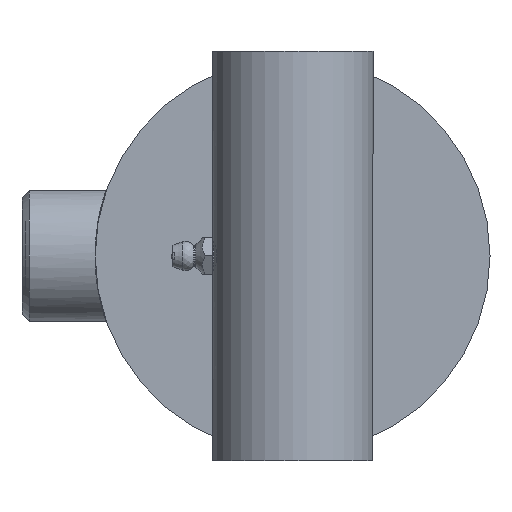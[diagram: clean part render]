
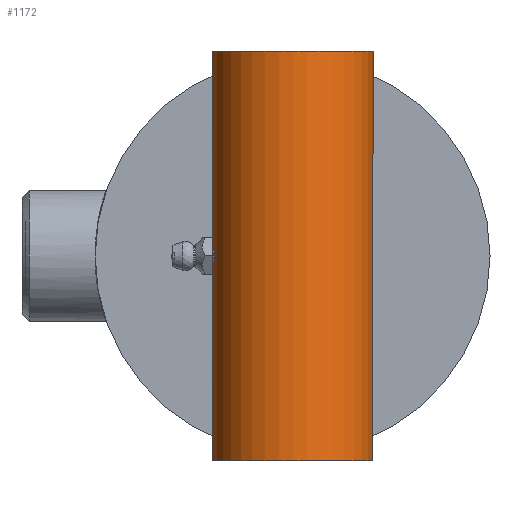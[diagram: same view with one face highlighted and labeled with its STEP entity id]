
A CAD part, left-side view. The second image highlights one B-rep face of the part: STEP entity #1172.
In plain terms, the highlighted cylindrical face has radius 17.462 mm (diameter 34.925 mm), a full revolution.
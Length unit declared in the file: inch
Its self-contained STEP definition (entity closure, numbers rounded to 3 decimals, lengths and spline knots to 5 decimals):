
#1027=CARTESIAN_POINT('',(0.67335,0.13874,0.));
#1028=VERTEX_POINT('',#1027);
#1064=CARTESIAN_POINT('',(0.67335,0.13875,0.));
#1065=CARTESIAN_POINT('',(0.67335,0.13875,0.00334));
#1066=CARTESIAN_POINT('',(0.6734,0.13853,0.00983));
#1067=CARTESIAN_POINT('',(0.67379,0.13658,0.02652));
#1068=CARTESIAN_POINT('',(0.67533,0.12914,0.05309));
#1069=CARTESIAN_POINT('',(0.67874,0.11007,0.08342));
#1070=CARTESIAN_POINT('',(0.68323,0.07958,0.1125));
#1071=CARTESIAN_POINT('',(0.68767,0.03226,0.13439));
#1072=CARTESIAN_POINT('',(0.68785,-0.05385,0.13494));
#1073=CARTESIAN_POINT('',(0.67653,-0.12465,0.0803));
#1074=CARTESIAN_POINT('',(0.67229,-0.14345,-0.00007));
#1075=CARTESIAN_POINT('',(0.67544,-0.12925,-0.06003));
#1076=CARTESIAN_POINT('',(0.68226,-0.08943,-0.10784));
#1077=CARTESIAN_POINT('',(0.68775,-0.03216,-0.13462));
#1078=CARTESIAN_POINT('',(0.68769,0.03216,-0.13448));
#1079=CARTESIAN_POINT('',(0.68322,0.07958,-0.11247));
#1080=CARTESIAN_POINT('',(0.67874,0.11008,-0.08342));
#1081=CARTESIAN_POINT('',(0.67532,0.12914,-0.05308));
#1082=CARTESIAN_POINT('',(0.67379,0.13658,-0.02651));
#1083=CARTESIAN_POINT('',(0.6734,0.13853,-0.00982));
#1084=CARTESIAN_POINT('',(0.67335,0.13875,-0.00333));
#1085=CARTESIAN_POINT('',(0.67335,0.13875,0.));
#1086=B_SPLINE_CURVE_WITH_KNOTS('',3,(#1064,#1065,#1066,#1067,#1068,#1069,#1070,#1071,#1072,#1073,#1074,#1075,#1076,#1077,#1078,#1079,#1080,#1081,#1082,#1083,#1084,#1085),.UNSPECIFIED.,.T.,.U.,(4,1,1,1,1,1,1,1,1,1,1,1,1,1,1,1,1,1,1,4),(-2.12554,-2.08759,-2.04963,-1.97372,-1.89781,-1.8219,-1.67007,-1.51825,-1.2146,-1.06277,-0.91095,-0.75912,-0.6073,-0.45547,-0.30365,-0.22774,-0.15182,-0.07591,-0.03796,0.0),.UNSPECIFIED.);
#1087=EDGE_CURVE('',#1028,#1028,#1086,.T.);
#1142=CARTESIAN_POINT('',(0.0,0.0,0.0));
#1143=DIRECTION('',(0.0,0.0,1.0));
#1144=DIRECTION('',(-1.0,0.0,0.0));
#1145=AXIS2_PLACEMENT_3D('',#1142,#1143,#1144);
#1146=CYLINDRICAL_SURFACE('',#1145,0.6875);
#1147=CARTESIAN_POINT('',(0.6875,0.,1.75));
#1148=VERTEX_POINT('',#1147);
#1149=CARTESIAN_POINT('',(0.0,0.0,1.75));
#1150=DIRECTION('',(0.0,0.0,-1.0));
#1151=DIRECTION('',(-1.0,0.0,0.0));
#1152=AXIS2_PLACEMENT_3D('',#1149,#1150,#1151);
#1153=CIRCLE('',#1152,0.6875);
#1154=EDGE_CURVE('',#1148,#1148,#1153,.T.);
#1155=ORIENTED_EDGE('',*,*,#1154,.T.);
#1156=EDGE_LOOP('',(#1155));
#1157=FACE_OUTER_BOUND('',#1156,.T.);
#1158=CARTESIAN_POINT('',(0.6875,0.,-1.75));
#1159=VERTEX_POINT('',#1158);
#1160=CARTESIAN_POINT('',(0.0,0.0,-1.75));
#1161=DIRECTION('',(0.0,0.0,1.0));
#1162=DIRECTION('',(-1.0,0.0,0.0));
#1163=AXIS2_PLACEMENT_3D('',#1160,#1161,#1162);
#1164=CIRCLE('',#1163,0.6875);
#1165=EDGE_CURVE('',#1159,#1159,#1164,.T.);
#1166=ORIENTED_EDGE('',*,*,#1165,.T.);
#1167=EDGE_LOOP('',(#1166));
#1168=FACE_BOUND('',#1167,.T.);
#1169=ORIENTED_EDGE('',*,*,#1087,.F.);
#1170=EDGE_LOOP('',(#1169));
#1171=FACE_BOUND('',#1170,.T.);
#1172=ADVANCED_FACE('',(#1157,#1168,#1171),#1146,.T.);
